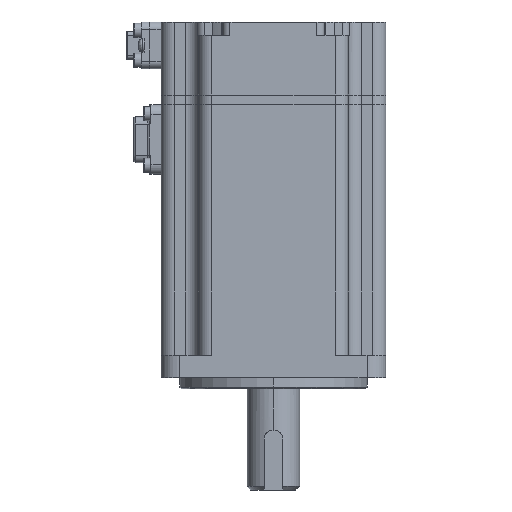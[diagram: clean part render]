
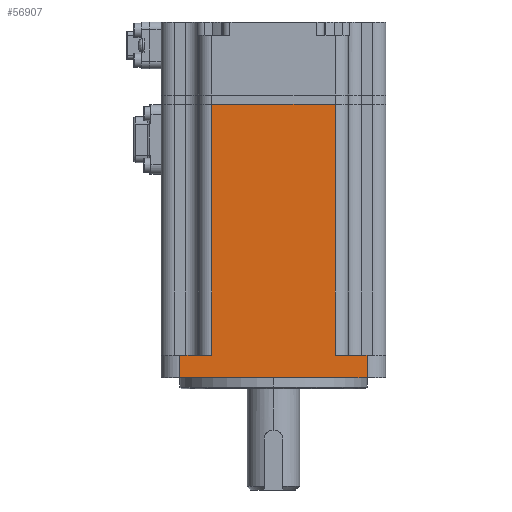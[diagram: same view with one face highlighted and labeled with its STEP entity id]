
A CAD part, left-side view. The second image highlights one B-rep face of the part: STEP entity #56907.
In plain terms, the highlighted planar face has unit normal (-1, 0, 0).
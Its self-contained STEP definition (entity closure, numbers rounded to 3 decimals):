
#571 = CARTESIAN_POINT ( 'NONE',  ( -30., 16.5, -86.632 ) ) ;
#740 = VECTOR ( 'NONE', #43198, 1000. ) ;
#1169 = EDGE_CURVE ( 'NONE', #22718, #46129, #1931, .T. ) ;
#1931 = LINE ( 'NONE', #19916, #20708 ) ;
#2045 = CARTESIAN_POINT ( 'NONE',  ( -30., 30., 76. ) ) ;
#3044 = VECTOR ( 'NONE', #55343, 1000. ) ;
#5703 = CARTESIAN_POINT ( 'NONE',  ( -30., -16.5, 9. ) ) ;
#5887 = ORIENTED_EDGE ( 'NONE', *, *, #1169, .F. ) ;
#6308 = EDGE_CURVE ( 'NONE', #28085, #6542, #23557, .T. ) ;
#6542 = VERTEX_POINT ( 'NONE', #17920 ) ;
#6728 = EDGE_CURVE ( 'NONE', #6542, #22074, #13778, .T. ) ;
#6875 = CARTESIAN_POINT ( 'NONE',  ( -30., 25., 3. ) ) ;
#7465 = ORIENTED_EDGE ( 'NONE', *, *, #49140, .T. ) ;
#11904 = CARTESIAN_POINT ( 'NONE',  ( -30., 30., 9. ) ) ;
#12202 = ORIENTED_EDGE ( 'NONE', *, *, #6308, .F. ) ;
#13778 = LINE ( 'NONE', #23784, #27556 ) ;
#14076 = LINE ( 'NONE', #41425, #46516 ) ;
#14432 = EDGE_CURVE ( 'NONE', #42221, #22074, #29389, .T. ) ;
#15482 = DIRECTION ( 'NONE',  ( 0., 1., 0. ) ) ;
#17920 = CARTESIAN_POINT ( 'NONE',  ( -30., 16.5, 76. ) ) ;
#18246 = CARTESIAN_POINT ( 'NONE',  ( -30., -16.5, 76. ) ) ;
#18881 = EDGE_CURVE ( 'NONE', #57536, #46129, #14076, .T. ) ;
#19092 = DIRECTION ( 'NONE',  ( 0., 0., -1. ) ) ;
#19916 = CARTESIAN_POINT ( 'NONE',  ( -30., 30., 3. ) ) ;
#20708 = VECTOR ( 'NONE', #15482, 1000. ) ;
#20715 = VERTEX_POINT ( 'NONE', #39867 ) ;
#21041 = LINE ( 'NONE', #11904, #30219 ) ;
#21560 = VECTOR ( 'NONE', #34572, 1000. ) ;
#21626 = DIRECTION ( 'NONE',  ( 0., 0., 1. ) ) ;
#22074 = VERTEX_POINT ( 'NONE', #18246 ) ;
#22718 = VERTEX_POINT ( 'NONE', #34877 ) ;
#23557 = LINE ( 'NONE', #571, #3044 ) ;
#23784 = CARTESIAN_POINT ( 'NONE',  ( -30., 30., 76. ) ) ;
#23866 = FACE_OUTER_BOUND ( 'NONE', #26208, .T. ) ;
#26124 = ORIENTED_EDGE ( 'NONE', *, *, #41656, .T. ) ;
#26208 = EDGE_LOOP ( 'NONE', ( #5887, #28876, #26124, #47251, #41911, #12202, #7465, #35272 ) ) ;
#27331 = DIRECTION ( 'NONE',  ( 0., -1., 0. ) ) ;
#27556 = VECTOR ( 'NONE', #27331, 1000. ) ;
#28085 = VERTEX_POINT ( 'NONE', #50709 ) ;
#28258 = DIRECTION ( 'NONE',  ( 1., 0., 0. ) ) ;
#28832 = PLANE ( 'NONE',  #43304 ) ;
#28876 = ORIENTED_EDGE ( 'NONE', *, *, #49234, .T. ) ;
#29389 = LINE ( 'NONE', #56793, #740 ) ;
#30219 = VECTOR ( 'NONE', #38946, 1000. ) ;
#33092 = LINE ( 'NONE', #51077, #45316 ) ;
#34572 = DIRECTION ( 'NONE',  ( 0., 1., 0. ) ) ;
#34877 = CARTESIAN_POINT ( 'NONE',  ( -30., -25., 3. ) ) ;
#35272 = ORIENTED_EDGE ( 'NONE', *, *, #18881, .T. ) ;
#37124 = CARTESIAN_POINT ( 'NONE',  ( -30., 25., 9. ) ) ;
#38946 = DIRECTION ( 'NONE',  ( 0., 1., 0. ) ) ;
#39867 = CARTESIAN_POINT ( 'NONE',  ( -30., -25., 9. ) ) ;
#41425 = CARTESIAN_POINT ( 'NONE',  ( -30., 25., 76. ) ) ;
#41656 = EDGE_CURVE ( 'NONE', #20715, #42221, #47541, .T. ) ;
#41911 = ORIENTED_EDGE ( 'NONE', *, *, #6728, .F. ) ;
#42221 = VERTEX_POINT ( 'NONE', #5703 ) ;
#43198 = DIRECTION ( 'NONE',  ( 0., 0., 1. ) ) ;
#43304 = AXIS2_PLACEMENT_3D ( 'NONE', #2045, #28258, #55364 ) ;
#45316 = VECTOR ( 'NONE', #21626, 1000. ) ;
#46129 = VERTEX_POINT ( 'NONE', #6875 ) ;
#46516 = VECTOR ( 'NONE', #19092, 1000. ) ;
#47251 = ORIENTED_EDGE ( 'NONE', *, *, #14432, .T. ) ;
#47541 = LINE ( 'NONE', #48128, #21560 ) ;
#48128 = CARTESIAN_POINT ( 'NONE',  ( -30., 30., 9. ) ) ;
#49140 = EDGE_CURVE ( 'NONE', #28085, #57536, #21041, .T. ) ;
#49234 = EDGE_CURVE ( 'NONE', #22718, #20715, #33092, .T. ) ;
#50709 = CARTESIAN_POINT ( 'NONE',  ( -30., 16.5, 9. ) ) ;
#51077 = CARTESIAN_POINT ( 'NONE',  ( -30., -25., 76. ) ) ;
#55343 = DIRECTION ( 'NONE',  ( 0., 0., 1. ) ) ;
#55364 = DIRECTION ( 'NONE',  ( 0., 0., -1. ) ) ;
#56793 = CARTESIAN_POINT ( 'NONE',  ( -30., -16.5, -86.632 ) ) ;
#56907 = ADVANCED_FACE ( 'NONE', ( #23866 ), #28832, .F. ) ;
#57536 = VERTEX_POINT ( 'NONE', #37124 ) ;
